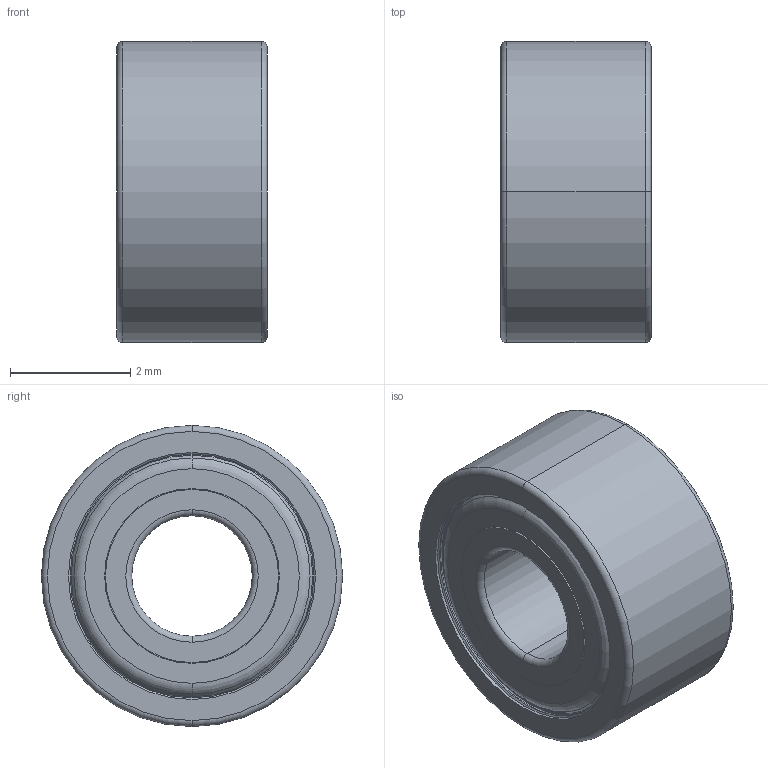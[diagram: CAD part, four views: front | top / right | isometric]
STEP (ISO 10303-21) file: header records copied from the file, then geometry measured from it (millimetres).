
FILE_DESCRIPTION((''),'2;1');
FILE_NAME('MR52_-_EA003','2025-12-19T16:40:30',('qinghui.yi'),(''),'CREO PARAMETRIC BY PTC INC, 2019164','CREO PARAMETRIC BY PTC INC, 2019164','');
FILE_SCHEMA(('CONFIG_CONTROL_DESIGN','SHAPE_APPEARANCE_LAYERS_GROUPS'));
Length unit declared in the file: millimetre
Products named in the file (1): MR52_-_EA003
Bounding box: 2.5 x 5 x 5 mm (x, y, z)
Volume: 25.9 mm3; surface area: 161.3 mm2
Topology: 2 solids, 2 shells, 88 faces, 182 edges, 108 vertices
Faces by surface type: torus 34, cylinder 24, cone 16, plane 14
Entity records: 2615 total; most frequent: DIRECTION 500, CARTESIAN_POINT 378, ORIENTED_EDGE 364, AXIS2_PLACEMENT_3D 230, COLOUR_RGB 196, EDGE_CURVE 182, CIRCLE 142, VERTEX_POINT 108
